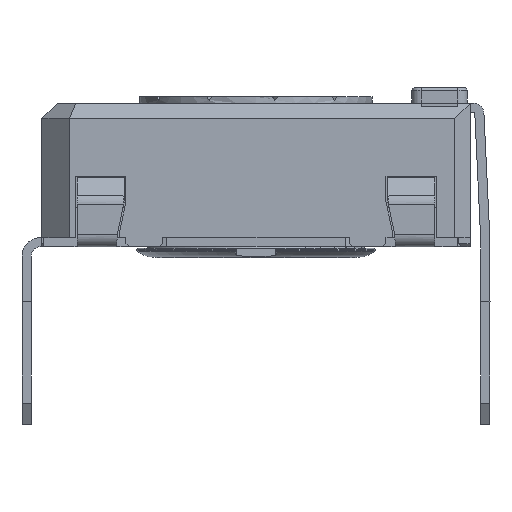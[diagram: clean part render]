
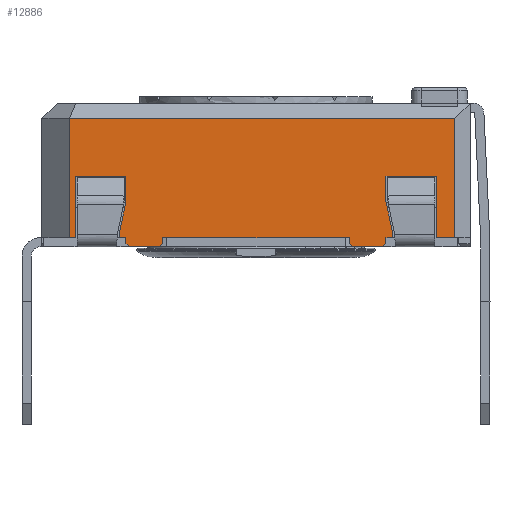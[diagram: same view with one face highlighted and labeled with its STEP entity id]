
A CAD part, left-side view. The second image highlights one B-rep face of the part: STEP entity #12886.
In plain terms, the highlighted planar face has unit normal (-1, 0, 0).
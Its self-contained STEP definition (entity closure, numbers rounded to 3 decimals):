
#446=PLANE('',#13758);
#1044=FACE_OUTER_BOUND('',#1730,.T.);
#1730=EDGE_LOOP('',(#10618,#10619,#10620,#10621,#10622,#10623,#10624,#10625,
#10626,#10627,#10628,#10629,#10630,#10631,#10632,#10633,#10634,#10635,#10636,
#10637,#10638,#10639,#10640,#10641,#10642,#10643,#10644,#10645));
#2720=LINE('',#19654,#4204);
#2726=LINE('',#19666,#4210);
#2729=LINE('',#19673,#4213);
#2734=LINE('',#19682,#4218);
#2754=LINE('',#19723,#4238);
#2768=LINE('',#19749,#4252);
#2772=LINE('',#19756,#4256);
#2787=LINE('',#19785,#4271);
#2790=LINE('',#19791,#4274);
#2795=LINE('',#19801,#4279);
#2798=LINE('',#19807,#4282);
#2801=LINE('',#19813,#4285);
#2819=LINE('',#19848,#4303);
#2831=LINE('',#19870,#4315);
#2834=LINE('',#19876,#4318);
#2871=LINE('',#20010,#4355);
#2879=LINE('',#20024,#4363);
#2888=LINE('',#20042,#4372);
#2893=LINE('',#20052,#4377);
#2895=LINE('',#20055,#4379);
#3019=LINE('',#20363,#4503);
#3021=LINE('',#20368,#4505);
#3024=LINE('',#20372,#4508);
#3026=LINE('',#20376,#4510);
#3029=LINE('',#20384,#4513);
#3030=LINE('',#20386,#4514);
#3031=LINE('',#20387,#4515);
#3032=LINE('',#20388,#4516);
#4204=VECTOR('',#15793,10.);
#4210=VECTOR('',#15801,10.);
#4213=VECTOR('',#15806,10.);
#4218=VECTOR('',#15813,10.);
#4238=VECTOR('',#15847,10.);
#4252=VECTOR('',#15861,10.);
#4256=VECTOR('',#15865,10.);
#4271=VECTOR('',#15892,10.);
#4274=VECTOR('',#15897,10.);
#4279=VECTOR('',#15904,10.);
#4282=VECTOR('',#15909,10.);
#4285=VECTOR('',#15914,10.);
#4303=VECTOR('',#15934,10.);
#4315=VECTOR('',#15948,10.);
#4318=VECTOR('',#15953,10.);
#4355=VECTOR('',#16034,10.);
#4363=VECTOR('',#16044,10.);
#4372=VECTOR('',#16055,10.);
#4377=VECTOR('',#16062,10.);
#4379=VECTOR('',#16066,10.);
#4503=VECTOR('',#16358,10.);
#4505=VECTOR('',#16362,10.);
#4508=VECTOR('',#16367,10.);
#4510=VECTOR('',#16373,10.);
#4513=VECTOR('',#16384,10.);
#4514=VECTOR('',#16385,10.);
#4515=VECTOR('',#16386,10.);
#4516=VECTOR('',#16387,10.);
#5910=VERTEX_POINT('',#19651);
#5911=VERTEX_POINT('',#19653);
#5915=VERTEX_POINT('',#19663);
#5917=VERTEX_POINT('',#19669);
#5919=VERTEX_POINT('',#19672);
#5922=VERTEX_POINT('',#19680);
#5947=VERTEX_POINT('',#19746);
#5948=VERTEX_POINT('',#19748);
#5950=VERTEX_POINT('',#19753);
#5951=VERTEX_POINT('',#19755);
#5958=VERTEX_POINT('',#19782);
#5960=VERTEX_POINT('',#19788);
#5964=VERTEX_POINT('',#19798);
#5966=VERTEX_POINT('',#19804);
#5969=VERTEX_POINT('',#19811);
#5985=VERTEX_POINT('',#19846);
#5994=VERTEX_POINT('',#19868);
#5996=VERTEX_POINT('',#19874);
#6023=VERTEX_POINT('',#20008);
#6028=VERTEX_POINT('',#20022);
#6035=VERTEX_POINT('',#20039);
#6039=VERTEX_POINT('',#20049);
#6113=VERTEX_POINT('',#20360);
#6114=VERTEX_POINT('',#20362);
#6115=VERTEX_POINT('',#20366);
#6116=VERTEX_POINT('',#20367);
#6117=VERTEX_POINT('',#20383);
#6118=VERTEX_POINT('',#20385);
#7400=EDGE_CURVE('',#5911,#5910,#2720,.T.);
#7406=EDGE_CURVE('',#5910,#5915,#2726,.T.);
#7409=EDGE_CURVE('',#5919,#5917,#2729,.T.);
#7414=EDGE_CURVE('',#5922,#5917,#2734,.T.);
#7434=EDGE_CURVE('',#5915,#5919,#2754,.T.);
#7448=EDGE_CURVE('',#5948,#5947,#2768,.T.);
#7452=EDGE_CURVE('',#5951,#5950,#2772,.T.);
#7468=EDGE_CURVE('',#5947,#5958,#2787,.T.);
#7471=EDGE_CURVE('',#5958,#5960,#2790,.T.);
#7476=EDGE_CURVE('',#5960,#5964,#2795,.T.);
#7479=EDGE_CURVE('',#5964,#5966,#2798,.T.);
#7482=EDGE_CURVE('',#5966,#5969,#2801,.T.);
#7500=EDGE_CURVE('',#5969,#5985,#2819,.T.);
#7512=EDGE_CURVE('',#5994,#5985,#2831,.T.);
#7515=EDGE_CURVE('',#5996,#5994,#2834,.T.);
#7564=EDGE_CURVE('',#6023,#5996,#2871,.T.);
#7572=EDGE_CURVE('',#6023,#6028,#2879,.T.);
#7581=EDGE_CURVE('',#6028,#6035,#2888,.T.);
#7586=EDGE_CURVE('',#6035,#6039,#2893,.T.);
#7588=EDGE_CURVE('',#6039,#5911,#2895,.T.);
#7728=EDGE_CURVE('',#6113,#6114,#3019,.T.);
#7730=EDGE_CURVE('',#6115,#6116,#3021,.T.);
#7733=EDGE_CURVE('',#5948,#6113,#3024,.T.);
#7735=EDGE_CURVE('',#5950,#6116,#3026,.T.);
#7738=EDGE_CURVE('',#5922,#6117,#3029,.T.);
#7739=EDGE_CURVE('',#6118,#6117,#3030,.T.);
#7740=EDGE_CURVE('',#5951,#6118,#3031,.T.);
#7741=EDGE_CURVE('',#6115,#6114,#3032,.T.);
#10618=ORIENTED_EDGE('',*,*,#7406,.T.);
#10619=ORIENTED_EDGE('',*,*,#7434,.T.);
#10620=ORIENTED_EDGE('',*,*,#7409,.T.);
#10621=ORIENTED_EDGE('',*,*,#7414,.F.);
#10622=ORIENTED_EDGE('',*,*,#7738,.T.);
#10623=ORIENTED_EDGE('',*,*,#7739,.F.);
#10624=ORIENTED_EDGE('',*,*,#7740,.F.);
#10625=ORIENTED_EDGE('',*,*,#7452,.T.);
#10626=ORIENTED_EDGE('',*,*,#7735,.T.);
#10627=ORIENTED_EDGE('',*,*,#7730,.F.);
#10628=ORIENTED_EDGE('',*,*,#7741,.T.);
#10629=ORIENTED_EDGE('',*,*,#7728,.F.);
#10630=ORIENTED_EDGE('',*,*,#7733,.F.);
#10631=ORIENTED_EDGE('',*,*,#7448,.T.);
#10632=ORIENTED_EDGE('',*,*,#7468,.T.);
#10633=ORIENTED_EDGE('',*,*,#7471,.T.);
#10634=ORIENTED_EDGE('',*,*,#7476,.T.);
#10635=ORIENTED_EDGE('',*,*,#7479,.T.);
#10636=ORIENTED_EDGE('',*,*,#7482,.T.);
#10637=ORIENTED_EDGE('',*,*,#7500,.T.);
#10638=ORIENTED_EDGE('',*,*,#7512,.F.);
#10639=ORIENTED_EDGE('',*,*,#7515,.F.);
#10640=ORIENTED_EDGE('',*,*,#7564,.F.);
#10641=ORIENTED_EDGE('',*,*,#7572,.T.);
#10642=ORIENTED_EDGE('',*,*,#7581,.T.);
#10643=ORIENTED_EDGE('',*,*,#7586,.T.);
#10644=ORIENTED_EDGE('',*,*,#7588,.T.);
#10645=ORIENTED_EDGE('',*,*,#7400,.T.);
#12886=ADVANCED_FACE('',(#1044),#446,.T.);
#13758=AXIS2_PLACEMENT_3D('',#20382,#16382,#16383);
#15793=DIRECTION('',(0.,0.208,-0.978));
#15801=DIRECTION('',(0.,0.,-1.));
#15806=DIRECTION('',(0.,0.,-1.));
#15813=DIRECTION('',(0.,0.707,0.707));
#15847=DIRECTION('',(0.,-1.,0.));
#15861=DIRECTION('',(0.,-1.,0.));
#15865=DIRECTION('',(0.,-1.,0.));
#15892=DIRECTION('',(0.,0.,1.));
#15897=DIRECTION('',(0.,0.208,0.978));
#15904=DIRECTION('',(0.,0.,1.));
#15909=DIRECTION('',(0.,-1.,0.));
#15914=DIRECTION('',(0.,0.,-1.));
#15934=DIRECTION('',(0.,-1.,0.));
#15948=DIRECTION('',(0.,0.,-1.));
#15953=DIRECTION('',(0.,-1.,0.));
#16034=DIRECTION('',(0.,0.,1.));
#16044=DIRECTION('',(0.,-1.,0.));
#16055=DIRECTION('',(0.,0.,1.));
#16062=DIRECTION('',(0.,-1.,0.));
#16066=DIRECTION('',(0.,0.,-1.));
#16358=DIRECTION('',(0.,0.707,-0.707));
#16362=DIRECTION('',(0.,0.707,0.707));
#16367=DIRECTION('',(0.,0.,-1.));
#16373=DIRECTION('',(0.,0.,-1.));
#16382=DIRECTION('center_axis',(-1.,0.,0.));
#16383=DIRECTION('ref_axis',(0.,0.,1.));
#16384=DIRECTION('',(0.,-1.,0.));
#16385=DIRECTION('',(0.,0.707,-0.707));
#16386=DIRECTION('',(0.,0.,-1.));
#16387=DIRECTION('',(0.,-1.,0.));
#19651=CARTESIAN_POINT('',(-14.467,1.552,0.235));
#19653=CARTESIAN_POINT('',(-14.467,1.352,1.176));
#19654=CARTESIAN_POINT('',(-14.467,1.228,1.757));
#19663=CARTESIAN_POINT('',(-14.467,1.552,0.));
#19666=CARTESIAN_POINT('',(-14.467,1.552,0.));
#19669=CARTESIAN_POINT('',(-14.467,1.352,-0.2));
#19672=CARTESIAN_POINT('',(-14.467,1.352,0.));
#19673=CARTESIAN_POINT('',(-14.467,1.352,0.));
#19680=CARTESIAN_POINT('',(-14.467,1.252,-0.3));
#19682=CARTESIAN_POINT('',(-14.467,-1.436,-2.988));
#19723=CARTESIAN_POINT('',(-14.467,4.102,0.));
#19746=CARTESIAN_POINT('',(-14.467,-7.348,0.));
#19748=CARTESIAN_POINT('',(-14.467,-7.148,0.));
#19749=CARTESIAN_POINT('',(-14.467,4.102,0.));
#19753=CARTESIAN_POINT('',(-14.467,-5.948,0.));
#19755=CARTESIAN_POINT('',(-14.467,0.152,0.));
#19756=CARTESIAN_POINT('',(-14.467,4.102,0.));
#19782=CARTESIAN_POINT('',(-14.467,-7.348,0.235));
#19785=CARTESIAN_POINT('',(-14.467,-7.348,0.118));
#19788=CARTESIAN_POINT('',(-14.467,-7.148,1.176));
#19791=CARTESIAN_POINT('',(-14.467,-7.453,-0.254));
#19798=CARTESIAN_POINT('',(-14.467,-7.148,2.));
#19801=CARTESIAN_POINT('',(-14.467,-7.148,0.588));
#19804=CARTESIAN_POINT('',(-14.467,-8.798,2.));
#19807=CARTESIAN_POINT('',(-14.467,-8.523,2.));
#19811=CARTESIAN_POINT('',(-14.467,-8.798,0.));
#19813=CARTESIAN_POINT('',(-14.467,-8.798,0.));
#19846=CARTESIAN_POINT('',(-14.467,-9.398,0.));
#19848=CARTESIAN_POINT('',(-14.467,-9.595,0.));
#19868=CARTESIAN_POINT('',(-14.467,-9.398,3.9));
#19870=CARTESIAN_POINT('',(-14.467,-9.398,0.));
#19874=CARTESIAN_POINT('',(-14.467,3.202,3.9));
#19876=CARTESIAN_POINT('',(-14.467,-6.398,3.9));
#20008=CARTESIAN_POINT('',(-14.467,3.202,0.));
#20010=CARTESIAN_POINT('',(-14.467,3.202,0.));
#20022=CARTESIAN_POINT('',(-14.467,3.002,0.));
#20024=CARTESIAN_POINT('',(-14.467,-2.985,0.));
#20039=CARTESIAN_POINT('',(-14.467,3.002,2.));
#20042=CARTESIAN_POINT('',(-14.467,3.002,0.));
#20049=CARTESIAN_POINT('',(-14.467,1.352,2.));
#20052=CARTESIAN_POINT('',(-14.467,-3.448,2.));
#20055=CARTESIAN_POINT('',(-14.467,1.352,1.));
#20360=CARTESIAN_POINT('',(-14.467,-7.148,-0.2));
#20362=CARTESIAN_POINT('',(-14.467,-7.048,-0.3));
#20363=CARTESIAN_POINT('',(-14.467,-7.861,0.513));
#20366=CARTESIAN_POINT('',(-14.467,-6.048,-0.3));
#20367=CARTESIAN_POINT('',(-14.467,-5.948,-0.2));
#20368=CARTESIAN_POINT('',(-14.467,-6.911,-1.163));
#20372=CARTESIAN_POINT('',(-14.467,-7.148,0.));
#20376=CARTESIAN_POINT('',(-14.467,-5.948,0.));
#20382=CARTESIAN_POINT('Origin',(-14.467,-9.898,0.));
#20383=CARTESIAN_POINT('',(-14.467,0.252,-0.3));
#20384=CARTESIAN_POINT('',(-14.467,0.152,-0.3));
#20385=CARTESIAN_POINT('',(-14.467,0.152,-0.2));
#20386=CARTESIAN_POINT('',(-14.467,-2.386,2.338));
#20387=CARTESIAN_POINT('',(-14.467,0.152,0.));
#20388=CARTESIAN_POINT('',(-14.467,-7.148,-0.3));
